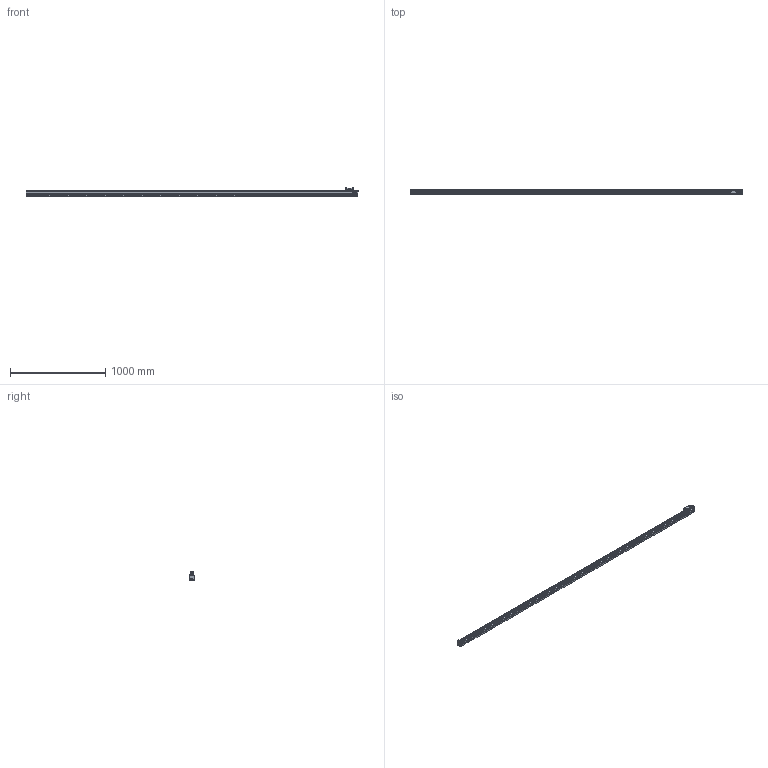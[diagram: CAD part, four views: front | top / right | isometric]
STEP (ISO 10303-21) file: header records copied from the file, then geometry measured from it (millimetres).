
FILE_DESCRIPTION(('Creo Elements/Direct Modeling STEP Export'),'2;1');
FILE_NAME('REGLA_L3_3240_T.stp','2020-12-16T11:38:22',(''),(''),'Creo Elements/Direct Modeling STEP processor for AP214 (Solid Model)','Creo Elements/Direct Modeling 19.0G 27-Nov-2017 (C) Parametric Technology GmbH','');
FILE_SCHEMA(('AUTOMOTIVE_DESIGN { 1 0 10303 214 1 1 1 1 }'));
Length unit declared in the file: millimetre
Products named in the file (3): CABEZA_L3_T; REGLA_L3_3240; REGLA_L3_3240_T
Assembly tree (2 placements, depth 2):
  REGLA_L3_3240_T
    REGLA_L3_3240
    CABEZA_L3_T
Bounding box: 3490 x 50 x 85 mm (x, y, z)
Volume: 9134096.2 mm3; surface area: 898231.3 mm2
Topology: 2 solids, 2 shells, 1613 faces, 4301 edges, 2766 vertices
Faces by surface type: plane 794, cylinder 494, cone 205, bspline 63, torus 51, extrusion 6
Entity records: 69294 total; most frequent: CARTESIAN_POINT 24367, ORIENTED_EDGE 8582, DIRECTION 7603, EDGE_CURVE 4291, VERTEX_POINT 2766, AXIS2_PLACEMENT_3D 2545, VECTOR 2513, LINE 2507
